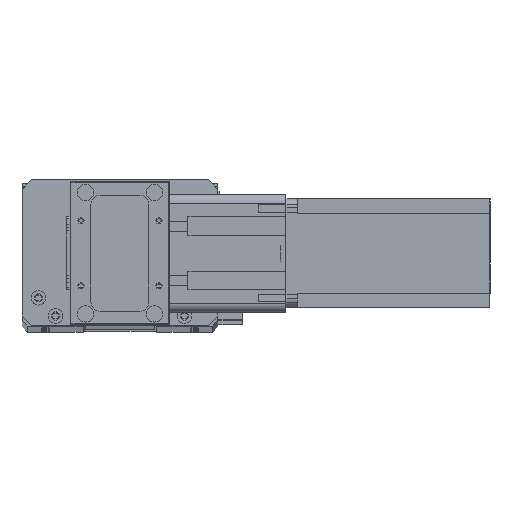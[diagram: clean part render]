
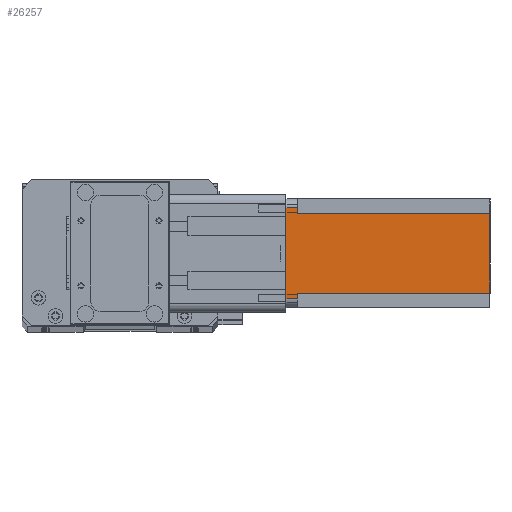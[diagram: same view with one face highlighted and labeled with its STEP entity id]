
A CAD part, top view. The second image highlights one B-rep face of the part: STEP entity #26257.
In plain terms, the highlighted planar face has unit normal (0, 0, 1) as drawn and (0, 1, 0) by its records, which use the part's own axes.
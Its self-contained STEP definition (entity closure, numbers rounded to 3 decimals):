
#818 = CARTESIAN_POINT ( 'NONE',  ( 8., 60., -6.5 ) ) ;
#1043 = CARTESIAN_POINT ( 'NONE',  ( 5., 60., 0. ) ) ;
#1065 = FACE_OUTER_BOUND ( 'NONE', #3340, .T. ) ;
#1612 = CARTESIAN_POINT ( 'NONE',  ( 52., 60., -112.5 ) ) ;
#2039 = VECTOR ( 'NONE', #21523, 1000. ) ;
#2323 = ORIENTED_EDGE ( 'NONE', *, *, #2494, .T. ) ;
#2494 = EDGE_CURVE ( 'NONE', #19182, #14189, #4788, .T. ) ;
#2623 = CARTESIAN_POINT ( 'NONE',  ( 0., 60., -112.5 ) ) ;
#2769 = LINE ( 'NONE', #5884, #2039 ) ;
#2782 = DIRECTION ( 'NONE',  ( 0., 0., 1. ) ) ;
#3069 = ORIENTED_EDGE ( 'NONE', *, *, #25307, .F. ) ;
#3113 = DIRECTION ( 'NONE',  ( -1., 0., 0. ) ) ;
#3340 = EDGE_LOOP ( 'NONE', ( #3069, #7150, #5899, #24452, #24317, #26379, #4634, #2323 ) ) ;
#3613 = CARTESIAN_POINT ( 'NONE',  ( 8., 60., -112.5 ) ) ;
#3731 = VERTEX_POINT ( 'NONE', #22759 ) ;
#3793 = DIRECTION ( 'NONE',  ( 0., 0., -1. ) ) ;
#3974 = PLANE ( 'NONE',  #17106 ) ;
#4634 = ORIENTED_EDGE ( 'NONE', *, *, #18655, .T. ) ;
#4788 = LINE ( 'NONE', #28864, #9424 ) ;
#4890 = DIRECTION ( 'NONE',  ( -1., 0., 0. ) ) ;
#4955 = CARTESIAN_POINT ( 'NONE',  ( 55., 60., 0. ) ) ;
#5031 = VECTOR ( 'NONE', #22318, 1000. ) ;
#5684 = EDGE_CURVE ( 'NONE', #3731, #23016, #7148, .T. ) ;
#5756 = VERTEX_POINT ( 'NONE', #1612 ) ;
#5884 = CARTESIAN_POINT ( 'NONE',  ( 52., 60., -6.5 ) ) ;
#5899 = ORIENTED_EDGE ( 'NONE', *, *, #15046, .F. ) ;
#6285 = DIRECTION ( 'NONE',  ( 0., 1., 0. ) ) ;
#7148 = LINE ( 'NONE', #3613, #23576 ) ;
#7150 = ORIENTED_EDGE ( 'NONE', *, *, #20255, .T. ) ;
#7953 = VECTOR ( 'NONE', #3113, 1000. ) ;
#8143 = EDGE_CURVE ( 'NONE', #5756, #14663, #17851, .T. ) ;
#8568 = VERTEX_POINT ( 'NONE', #23782 ) ;
#9424 = VECTOR ( 'NONE', #2782, 1000. ) ;
#9636 = VECTOR ( 'NONE', #4890, 1000. ) ;
#10557 = CARTESIAN_POINT ( 'NONE',  ( 55., 60., -112.5 ) ) ;
#10608 = VECTOR ( 'NONE', #3793, 1000. ) ;
#11807 = VERTEX_POINT ( 'NONE', #4955 ) ;
#13665 = CARTESIAN_POINT ( 'NONE',  ( 0., 60., 0. ) ) ;
#13896 = LINE ( 'NONE', #818, #7953 ) ;
#14189 = VERTEX_POINT ( 'NONE', #1043 ) ;
#14663 = VERTEX_POINT ( 'NONE', #25305 ) ;
#15046 = EDGE_CURVE ( 'NONE', #14663, #8568, #2769, .T. ) ;
#17106 = AXIS2_PLACEMENT_3D ( 'NONE', #28591, #6285, #21916 ) ;
#17851 = LINE ( 'NONE', #26666, #29035 ) ;
#18655 = EDGE_CURVE ( 'NONE', #3731, #19182, #13896, .T. ) ;
#19182 = VERTEX_POINT ( 'NONE', #20541 ) ;
#19997 = DIRECTION ( 'NONE',  ( 0., 0., 1. ) ) ;
#20255 = EDGE_CURVE ( 'NONE', #11807, #8568, #28419, .T. ) ;
#20541 = CARTESIAN_POINT ( 'NONE',  ( 5., 60., -6.5 ) ) ;
#21483 = LINE ( 'NONE', #2623, #9636 ) ;
#21523 = DIRECTION ( 'NONE',  ( 1., 0., 0. ) ) ;
#21916 = DIRECTION ( 'NONE',  ( 0., 0., 1. ) ) ;
#22318 = DIRECTION ( 'NONE',  ( -1., 0., 0. ) ) ;
#22759 = CARTESIAN_POINT ( 'NONE',  ( 8., 60., -6.5 ) ) ;
#23016 = VERTEX_POINT ( 'NONE', #27191 ) ;
#23576 = VECTOR ( 'NONE', #28326, 1000. ) ;
#23782 = CARTESIAN_POINT ( 'NONE',  ( 55., 60., -6.5 ) ) ;
#24317 = ORIENTED_EDGE ( 'NONE', *, *, #25904, .T. ) ;
#24452 = ORIENTED_EDGE ( 'NONE', *, *, #8143, .F. ) ;
#25305 = CARTESIAN_POINT ( 'NONE',  ( 52., 60., -6.5 ) ) ;
#25307 = EDGE_CURVE ( 'NONE', #11807, #14189, #28868, .T. ) ;
#25904 = EDGE_CURVE ( 'NONE', #5756, #23016, #21483, .T. ) ;
#26257 = ADVANCED_FACE ( 'NONE', ( #1065 ), #3974, .T. ) ;
#26379 = ORIENTED_EDGE ( 'NONE', *, *, #5684, .F. ) ;
#26666 = CARTESIAN_POINT ( 'NONE',  ( 52., 60., -112.5 ) ) ;
#27191 = CARTESIAN_POINT ( 'NONE',  ( 8., 60., -112.5 ) ) ;
#28326 = DIRECTION ( 'NONE',  ( 0., 0., -1. ) ) ;
#28419 = LINE ( 'NONE', #10557, #10608 ) ;
#28591 = CARTESIAN_POINT ( 'NONE',  ( 0., 60., -112.5 ) ) ;
#28864 = CARTESIAN_POINT ( 'NONE',  ( 5., 60., -112.5 ) ) ;
#28868 = LINE ( 'NONE', #13665, #5031 ) ;
#29035 = VECTOR ( 'NONE', #19997, 1000. ) ;
